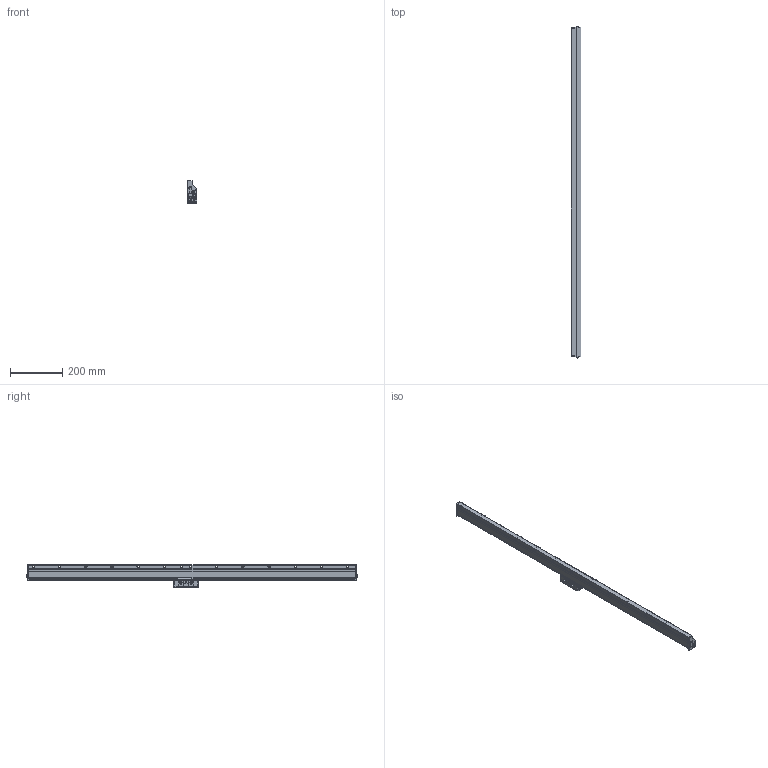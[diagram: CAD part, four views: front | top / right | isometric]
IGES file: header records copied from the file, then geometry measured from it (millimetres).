
Start section: Elysium IGES Interface
Global section: file name: 82HK:\20_商品設計\設計１課\個人\宮澤\郷間さん\AT1153\3D\NEW_ﾌｧｲﾙ\IGES\AT1153-1140.igs; native system: Creo Elements/Direct Modeling 18.1B  29-Sep-2012; preprocessor: Creo Element/Direct IGES_3D V2.2; author: Unknown; organization: Unknown; date: 20181012.113109; units: millimetre
Bounding box: 37 x 1268.44 x 85 mm (x, y, z)
Volume: 2004157 mm3; surface area: 291854.9 mm2
Topology: 2 solids, 2 shells, 2921 faces, 7767 edges, 5028 vertices
Faces by surface type: bspline 2921
